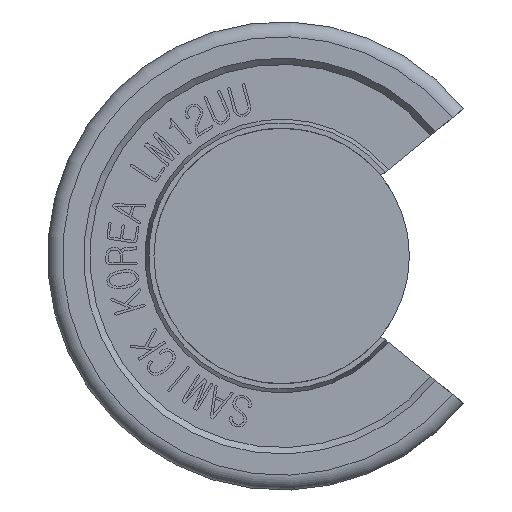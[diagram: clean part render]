
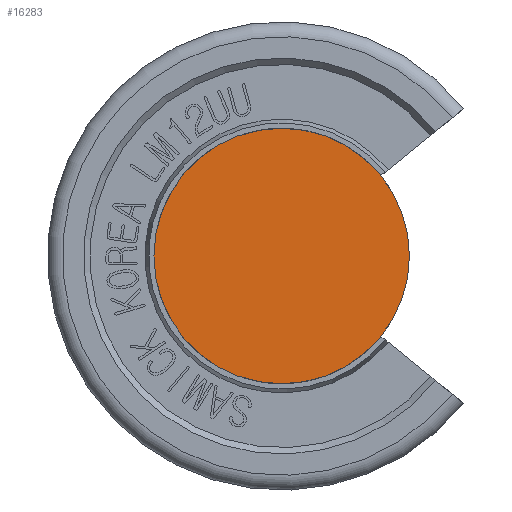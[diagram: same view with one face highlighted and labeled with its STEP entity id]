
A CAD part, front view. The second image highlights one B-rep face of the part: STEP entity #16283.
In plain terms, the highlighted planar face has unit normal (0, -1, 0).
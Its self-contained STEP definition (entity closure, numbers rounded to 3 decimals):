
#53=CIRCLE('',#16574,6.);
#327=PLANE('',#16576);
#1148=FACE_OUTER_BOUND('',#2016,.T.);
#2016=EDGE_LOOP('',(#14045));
#7059=VERTEX_POINT('',#28241);
#9399=EDGE_CURVE('',#7059,#7059,#53,.T.);
#14045=ORIENTED_EDGE('',*,*,#9399,.F.);
#16283=ADVANCED_FACE('',(#1148),#327,.T.);
#16574=AXIS2_PLACEMENT_3D('',#28243,#18267,#18268);
#16576=AXIS2_PLACEMENT_3D('',#28245,#18271,#18272);
#18267=DIRECTION('center_axis',(0.,1.,0.));
#18268=DIRECTION('ref_axis',(1.,0.,0.));
#18271=DIRECTION('center_axis',(0.,-1.,0.));
#18272=DIRECTION('ref_axis',(0.,0.,-1.));
#28241=CARTESIAN_POINT('',(-6.,-41.,0.));
#28243=CARTESIAN_POINT('Origin',(0.,-41.,0.));
#28245=CARTESIAN_POINT('Origin',(0.,-41.,0.));
